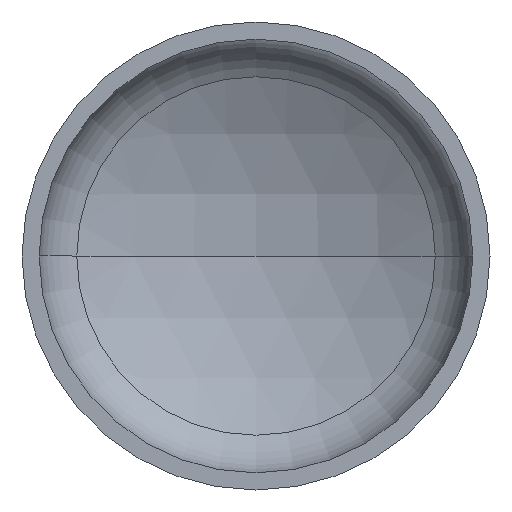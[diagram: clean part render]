
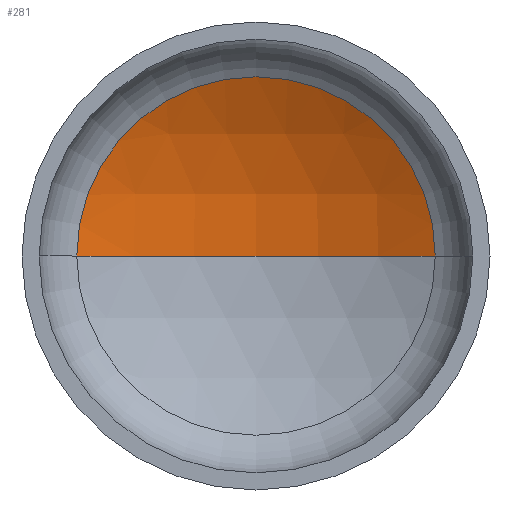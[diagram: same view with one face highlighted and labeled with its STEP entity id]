
A CAD part, front view. The second image highlights one B-rep face of the part: STEP entity #281.
In plain terms, the highlighted spherical face has radius 1920 mm.
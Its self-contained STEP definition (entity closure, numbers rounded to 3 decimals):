
#8 = EDGE_LOOP ( 'NONE', ( #22, #141, #113 ) ) ;
#9 = DIRECTION ( 'NONE',  ( 0., 0., 1. ) ) ;
#15 = VERTEX_POINT ( 'NONE', #248 ) ;
#22 = ORIENTED_EDGE ( 'NONE', *, *, #350, .F. ) ;
#23 = AXIS2_PLACEMENT_3D ( 'NONE', #167, #9, #276 ) ;
#32 = AXIS2_PLACEMENT_3D ( 'NONE', #401, #354, #210 ) ;
#33 = AXIS2_PLACEMENT_3D ( 'NONE', #161, #157, #158 ) ;
#53 = VERTEX_POINT ( 'NONE', #245 ) ;
#58 = AXIS2_PLACEMENT_3D ( 'NONE', #249, #204, #271 ) ;
#111 = VERTEX_POINT ( 'NONE', #303 ) ;
#113 = ORIENTED_EDGE ( 'NONE', *, *, #347, .T. ) ;
#141 = ORIENTED_EDGE ( 'NONE', *, *, #348, .T. ) ;
#145 = CIRCLE ( 'NONE', #23, 1920. ) ;
#151 = CIRCLE ( 'NONE', #33, 919.123 ) ;
#157 = DIRECTION ( 'NONE',  ( 0., -1., 0. ) ) ;
#158 = DIRECTION ( 'NONE',  ( 1., 0., 0. ) ) ;
#161 = CARTESIAN_POINT ( 'NONE',  ( 0., 424.85, 0. ) ) ;
#167 = CARTESIAN_POINT ( 'NONE',  ( 0., -1260.859, 0. ) ) ;
#204 = DIRECTION ( 'NONE',  ( 0., 0., -1. ) ) ;
#210 = DIRECTION ( 'NONE',  ( -1., 0., 0. ) ) ;
#245 = CARTESIAN_POINT ( 'NONE',  ( 919.123, 424.85, 0. ) ) ;
#248 = CARTESIAN_POINT ( 'NONE',  ( -919.123, 424.85, 0. ) ) ;
#249 = CARTESIAN_POINT ( 'NONE',  ( 0., -1260.859, 0. ) ) ;
#271 = DIRECTION ( 'NONE',  ( -1., 0., 0. ) ) ;
#276 = DIRECTION ( 'NONE',  ( 1., 0., 0. ) ) ;
#281 = ADVANCED_FACE ( 'NONE', ( #351 ), #411, .F. ) ;
#303 = CARTESIAN_POINT ( 'NONE',  ( 0., 659.141, 0. ) ) ;
#347 = EDGE_CURVE ( 'NONE', #53, #15, #151, .T. ) ;
#348 = EDGE_CURVE ( 'NONE', #111, #53, #402, .T. ) ;
#350 = EDGE_CURVE ( 'NONE', #111, #15, #145, .T. ) ;
#351 = FACE_OUTER_BOUND ( 'NONE', #8, .T. ) ;
#354 = DIRECTION ( 'NONE',  ( 0., 0., -1. ) ) ;
#401 = CARTESIAN_POINT ( 'NONE',  ( 0., -1260.859, 0. ) ) ;
#402 = CIRCLE ( 'NONE', #32, 1920. ) ;
#411 = SPHERICAL_SURFACE ( 'NONE', #58, 1920. ) ;
